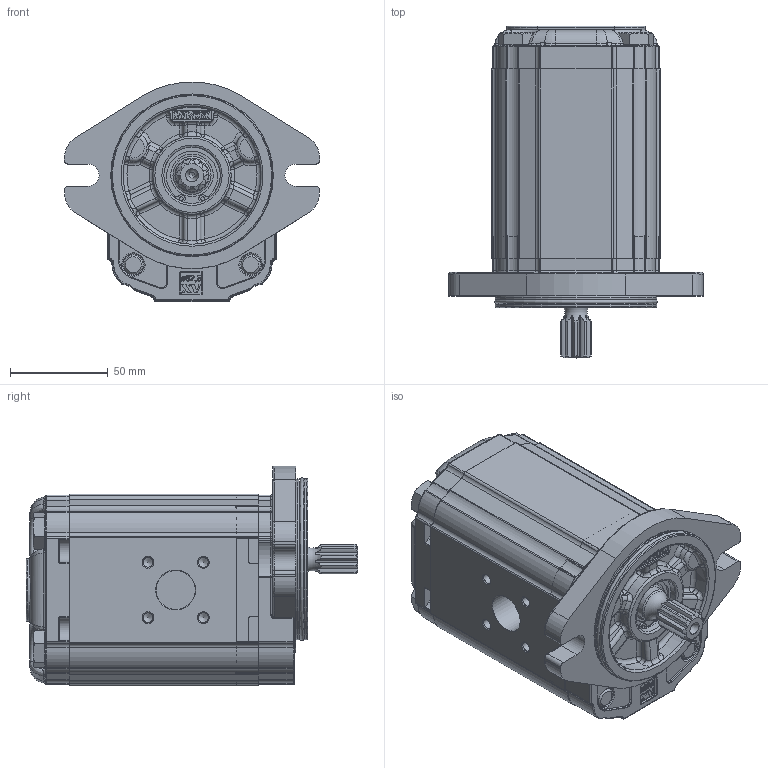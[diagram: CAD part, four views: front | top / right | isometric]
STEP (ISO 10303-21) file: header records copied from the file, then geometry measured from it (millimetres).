
FILE_DESCRIPTION( ( 'Unknown' ), '1' );
FILE_NAME( 'P:/montaggio_easy/output/STP/X2R6131ISSE.stp', 'Unknown', ( 'Unknown' ), ( 'Unknown' ), 'PSStep 14.0', 'Unknown', ' ' );
FILE_SCHEMA( ( 'AUTOMOTIVE_DESIGN { 1 0 10303 214 1 1 1 1 }' ) );
Length unit declared in the file: millimetre
Products named in the file (5): Assem1; X2R31; 2I; X2SSH97; XR219-E
Bounding box: 130.38 x 169.7 x 112.3 mm (x, y, z)
Volume: 2029853.8 mm3; surface area: 258717.5 mm2
Topology: 8 solids, 10 shells, 2948 faces, 7482 edges, 4686 vertices
Faces by surface type: plane 1144, cylinder 886, torus 320, extrusion 244, bspline 188, cone 114, sphere 52
Full cylindrical faces by diameter (mm): 2 x4, 5 x16, 10.5 x8, 11 x4, 11.445 x2, 16 x8, 17.42 x2, 17.48 x4, 18.724 x2, 20 x4, 20.595 x2, 21.741 x2, 25.834 x2, 28.56 x2, 28.57 x2, 28.8 x2, 30.4 x2, 79.6 x4, 82.5 x4
Entity records: 64661 total; most frequent: CARTESIAN_POINT 18460, ORIENTED_EDGE 7178, DIRECTION 6944, EDGE_CURVE 3589, AXIS2_PLACEMENT_3D 2482, VERTEX_POINT 2295, VECTOR 1980, LINE 1858
